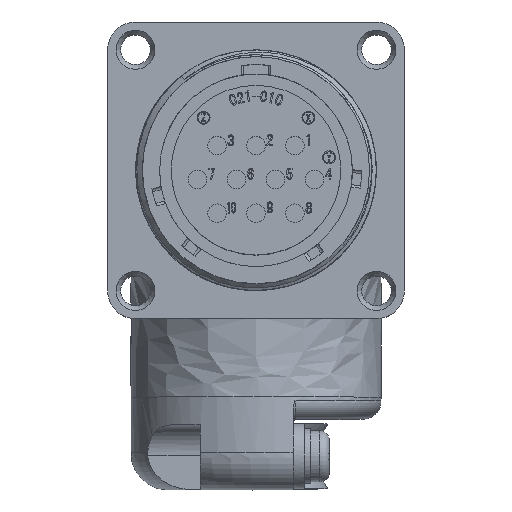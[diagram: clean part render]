
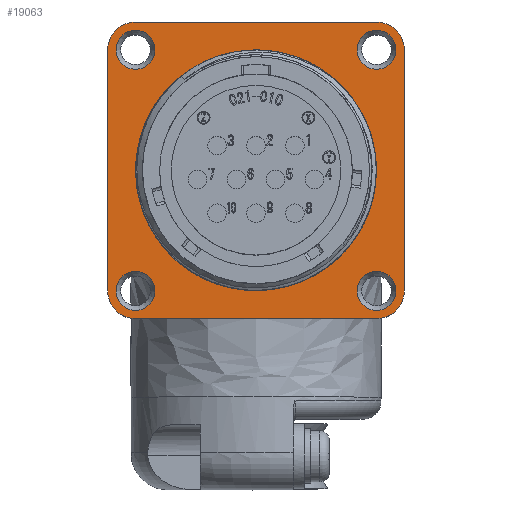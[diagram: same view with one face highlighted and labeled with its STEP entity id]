
A CAD part, top view. The second image highlights one B-rep face of the part: STEP entity #19063.
In plain terms, the highlighted planar face has unit normal (0, 0, 1).
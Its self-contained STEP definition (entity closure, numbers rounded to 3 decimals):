
#464 = DIRECTION ( 'NONE',  ( 1., 0., 0. ) ) ;
#790 = DIRECTION ( 'NONE',  ( 0., 0., -1. ) ) ;
#1156 = LINE ( 'NONE', #46657, #38712 ) ;
#1532 = CARTESIAN_POINT ( 'NONE',  ( 13., -13., -10.5 ) ) ;
#1716 = ORIENTED_EDGE ( 'NONE', *, *, #26371, .T. ) ;
#1779 = CIRCLE ( 'NONE', #28837, 3. ) ;
#1893 = CARTESIAN_POINT ( 'NONE',  ( -13., -16., -10.5 ) ) ;
#2073 = LINE ( 'NONE', #25269, #34799 ) ;
#2659 = DIRECTION ( 'NONE',  ( 1., 0., 0. ) ) ;
#3147 = CARTESIAN_POINT ( 'NONE',  ( -10.9, 13., -10.5 ) ) ;
#5139 = DIRECTION ( 'NONE',  ( 0., 0., 1. ) ) ;
#5265 = DIRECTION ( 'NONE',  ( 1., 0., 0. ) ) ;
#6453 = DIRECTION ( 'NONE',  ( 0., -1., 0. ) ) ;
#7874 = ORIENTED_EDGE ( 'NONE', *, *, #37087, .F. ) ;
#8510 = VERTEX_POINT ( 'NONE', #8764 ) ;
#8521 = CARTESIAN_POINT ( 'NONE',  ( 13., -16., -10.5 ) ) ;
#8605 = VECTOR ( 'NONE', #27736, 1000. ) ;
#8764 = CARTESIAN_POINT ( 'NONE',  ( 15.1, -13., -10.5 ) ) ;
#9052 = PLANE ( 'NONE',  #39115 ) ;
#9127 = DIRECTION ( 'NONE',  ( -1., 0., 0. ) ) ;
#9144 = DIRECTION ( 'NONE',  ( 1., 0., 0. ) ) ;
#9497 = DIRECTION ( 'NONE',  ( 0., 0., 1. ) ) ;
#9808 = CARTESIAN_POINT ( 'NONE',  ( -16., -13., -10.5 ) ) ;
#10041 = VERTEX_POINT ( 'NONE', #23169 ) ;
#10145 = EDGE_CURVE ( 'NONE', #30711, #37507, #1779, .T. ) ;
#10360 = VERTEX_POINT ( 'NONE', #47611 ) ;
#10516 = ORIENTED_EDGE ( 'NONE', *, *, #20700, .F. ) ;
#10737 = DIRECTION ( 'NONE',  ( 0., 0., 1. ) ) ;
#10801 = CIRCLE ( 'NONE', #31374, 2.1 ) ;
#11874 = ORIENTED_EDGE ( 'NONE', *, *, #12065, .F. ) ;
#12065 = EDGE_CURVE ( 'NONE', #40699, #30711, #1156, .T. ) ;
#12196 = FACE_OUTER_BOUND ( 'NONE', #30111, .T. ) ;
#12452 = VERTEX_POINT ( 'NONE', #34513 ) ;
#12465 = ORIENTED_EDGE ( 'NONE', *, *, #47002, .F. ) ;
#12488 = VERTEX_POINT ( 'NONE', #41670 ) ;
#13161 = AXIS2_PLACEMENT_3D ( 'NONE', #36070, #47817, #9127 ) ;
#13545 = ORIENTED_EDGE ( 'NONE', *, *, #33415, .F. ) ;
#14035 = CARTESIAN_POINT ( 'NONE',  ( 16., -13., -10.5 ) ) ;
#14629 = DIRECTION ( 'NONE',  ( 1., 0., 0. ) ) ;
#15194 = AXIS2_PLACEMENT_3D ( 'NONE', #24422, #20376, #9144 ) ;
#15219 = FACE_BOUND ( 'NONE', #15814, .T. ) ;
#15375 = CIRCLE ( 'NONE', #49663, 3. ) ;
#15460 = DIRECTION ( 'NONE',  ( 0., 0., -1. ) ) ;
#15814 = EDGE_LOOP ( 'NONE', ( #16503 ) ) ;
#16160 = CARTESIAN_POINT ( 'NONE',  ( -13., -13., -10.5 ) ) ;
#16185 = EDGE_LOOP ( 'NONE', ( #41088 ) ) ;
#16288 = VECTOR ( 'NONE', #5265, 1000. ) ;
#16503 = ORIENTED_EDGE ( 'NONE', *, *, #22489, .F. ) ;
#17011 = CARTESIAN_POINT ( 'NONE',  ( -13., -13., -10.5 ) ) ;
#18288 = VERTEX_POINT ( 'NONE', #24389 ) ;
#18305 = EDGE_CURVE ( 'NONE', #24330, #24330, #20160, .T. ) ;
#19063 = ADVANCED_FACE ( 'NONE', ( #12196, #21345, #15219, #26162, #46819, #36465 ), #9052, .T. ) ;
#19844 = CARTESIAN_POINT ( 'NONE',  ( 13., 13., -10.5 ) ) ;
#20160 = CIRCLE ( 'NONE', #38137, 2.1 ) ;
#20376 = DIRECTION ( 'NONE',  ( 0., 0., -1. ) ) ;
#20700 = EDGE_CURVE ( 'NONE', #33979, #33979, #32087, .T. ) ;
#21345 = FACE_BOUND ( 'NONE', #21664, .T. ) ;
#21664 = EDGE_LOOP ( 'NONE', ( #10516 ) ) ;
#22087 = ORIENTED_EDGE ( 'NONE', *, *, #34107, .F. ) ;
#22489 = EDGE_CURVE ( 'NONE', #8510, #8510, #10801, .T. ) ;
#23169 = CARTESIAN_POINT ( 'NONE',  ( 13., 16., -10.5 ) ) ;
#23526 = EDGE_LOOP ( 'NONE', ( #1716 ) ) ;
#24202 = CARTESIAN_POINT ( 'NONE',  ( -13., 13., -10.5 ) ) ;
#24330 = VERTEX_POINT ( 'NONE', #48273 ) ;
#24389 = CARTESIAN_POINT ( 'NONE',  ( 16., 13., -10.5 ) ) ;
#24422 = CARTESIAN_POINT ( 'NONE',  ( 0., 0., -10.5 ) ) ;
#24534 = CARTESIAN_POINT ( 'NONE',  ( -10.9, -13., -10.5 ) ) ;
#24852 = AXIS2_PLACEMENT_3D ( 'NONE', #45861, #10737, #14629 ) ;
#25269 = CARTESIAN_POINT ( 'NONE',  ( 16., 13., -10.5 ) ) ;
#25980 = LINE ( 'NONE', #32219, #16288 ) ;
#26162 = FACE_BOUND ( 'NONE', #16185, .T. ) ;
#26371 = EDGE_CURVE ( 'NONE', #10360, #10360, #34809, .T. ) ;
#27191 = DIRECTION ( 'NONE',  ( 0., 0., -1. ) ) ;
#27736 = DIRECTION ( 'NONE',  ( 0., 1., 0. ) ) ;
#27876 = EDGE_CURVE ( 'NONE', #12488, #12452, #15375, .T. ) ;
#28837 = AXIS2_PLACEMENT_3D ( 'NONE', #16160, #27191, #47227 ) ;
#28986 = DIRECTION ( 'NONE',  ( 1., 0., 0. ) ) ;
#29554 = CIRCLE ( 'NONE', #45222, 2.1 ) ;
#29620 = DIRECTION ( 'NONE',  ( 0., 0., 1. ) ) ;
#30111 = EDGE_LOOP ( 'NONE', ( #32934, #11874, #40383, #12465, #22087, #7874, #42497, #13545 ) ) ;
#30711 = VERTEX_POINT ( 'NONE', #1893 ) ;
#31374 = AXIS2_PLACEMENT_3D ( 'NONE', #1532, #9497, #28986 ) ;
#32087 = CIRCLE ( 'NONE', #24852, 2.1 ) ;
#32219 = CARTESIAN_POINT ( 'NONE',  ( 13., 16., -10.5 ) ) ;
#32934 = ORIENTED_EDGE ( 'NONE', *, *, #10145, .F. ) ;
#32998 = ORIENTED_EDGE ( 'NONE', *, *, #43508, .F. ) ;
#33331 = CARTESIAN_POINT ( 'NONE',  ( -13., 13., -10.5 ) ) ;
#33415 = EDGE_CURVE ( 'NONE', #37507, #12488, #40792, .T. ) ;
#33979 = VERTEX_POINT ( 'NONE', #24534 ) ;
#34107 = EDGE_CURVE ( 'NONE', #10041, #18288, #40740, .T. ) ;
#34513 = CARTESIAN_POINT ( 'NONE',  ( -13., 16., -10.5 ) ) ;
#34754 = EDGE_LOOP ( 'NONE', ( #32998 ) ) ;
#34799 = VECTOR ( 'NONE', #6453, 1000. ) ;
#34809 = CIRCLE ( 'NONE', #15194, 12.98 ) ;
#35103 = CARTESIAN_POINT ( 'NONE',  ( 13., -13., -10.5 ) ) ;
#35387 = DIRECTION ( 'NONE',  ( 1., 0., 0. ) ) ;
#35499 = AXIS2_PLACEMENT_3D ( 'NONE', #35103, #15460, #42603 ) ;
#36070 = CARTESIAN_POINT ( 'NONE',  ( 13., 13., -10.5 ) ) ;
#36465 = FACE_BOUND ( 'NONE', #23526, .T. ) ;
#37087 = EDGE_CURVE ( 'NONE', #12452, #10041, #25980, .T. ) ;
#37507 = VERTEX_POINT ( 'NONE', #9808 ) ;
#38137 = AXIS2_PLACEMENT_3D ( 'NONE', #19844, #46964, #35387 ) ;
#38712 = VECTOR ( 'NONE', #38992, 1000. ) ;
#38888 = VERTEX_POINT ( 'NONE', #14035 ) ;
#38992 = DIRECTION ( 'NONE',  ( -1., 0., 0. ) ) ;
#39115 = AXIS2_PLACEMENT_3D ( 'NONE', #17011, #5139, #47399 ) ;
#39782 = CARTESIAN_POINT ( 'NONE',  ( -16., 13., -10.5 ) ) ;
#40383 = ORIENTED_EDGE ( 'NONE', *, *, #48823, .F. ) ;
#40699 = VERTEX_POINT ( 'NONE', #8521 ) ;
#40740 = CIRCLE ( 'NONE', #13161, 3. ) ;
#40792 = LINE ( 'NONE', #39782, #8605 ) ;
#40833 = CIRCLE ( 'NONE', #35499, 3. ) ;
#41088 = ORIENTED_EDGE ( 'NONE', *, *, #18305, .F. ) ;
#41670 = CARTESIAN_POINT ( 'NONE',  ( -16., 13., -10.5 ) ) ;
#42497 = ORIENTED_EDGE ( 'NONE', *, *, #27876, .F. ) ;
#42603 = DIRECTION ( 'NONE',  ( -1., 0., 0. ) ) ;
#43121 = VERTEX_POINT ( 'NONE', #3147 ) ;
#43508 = EDGE_CURVE ( 'NONE', #43121, #43121, #29554, .T. ) ;
#45222 = AXIS2_PLACEMENT_3D ( 'NONE', #33331, #29620, #2659 ) ;
#45861 = CARTESIAN_POINT ( 'NONE',  ( -13., -13., -10.5 ) ) ;
#46657 = CARTESIAN_POINT ( 'NONE',  ( 13., -16., -10.5 ) ) ;
#46819 = FACE_BOUND ( 'NONE', #34754, .T. ) ;
#46964 = DIRECTION ( 'NONE',  ( 0., 0., 1. ) ) ;
#47002 = EDGE_CURVE ( 'NONE', #18288, #38888, #2073, .T. ) ;
#47227 = DIRECTION ( 'NONE',  ( 1., 0., 0. ) ) ;
#47399 = DIRECTION ( 'NONE',  ( 1., 0., 0. ) ) ;
#47611 = CARTESIAN_POINT ( 'NONE',  ( 12.98, 0., -10.5 ) ) ;
#47817 = DIRECTION ( 'NONE',  ( 0., 0., -1. ) ) ;
#48273 = CARTESIAN_POINT ( 'NONE',  ( 15.1, 13., -10.5 ) ) ;
#48823 = EDGE_CURVE ( 'NONE', #38888, #40699, #40833, .T. ) ;
#49663 = AXIS2_PLACEMENT_3D ( 'NONE', #24202, #790, #464 ) ;
